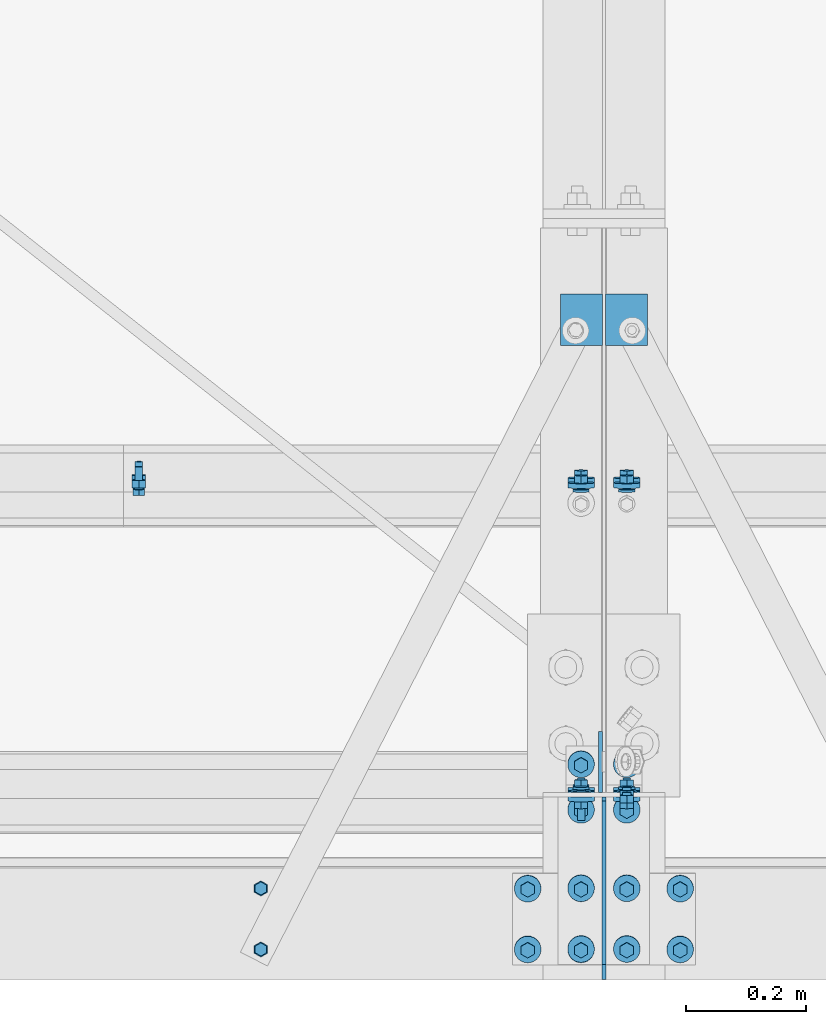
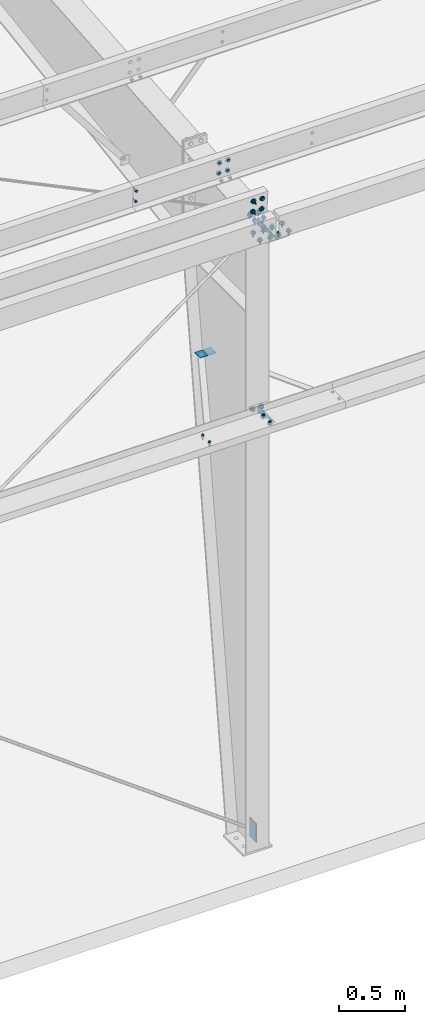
# One storey, part 66 of 185: 16 mechanical fasteners, 5 discrete accessories, 10 elements without a shape of their own.
"""IFC2X3 building model written with IfcOpenShell, lengths in millimetres."""

from ifc_helpers import new_model, si_unit, frame, origin_with_axes, origin_2d_with_axis, place, context, subcontext, project, spatial, polyline, rectangle, circle, outline, extrude, source, transform, mapped, material, type_object, element, aggregate, save


model = new_model("IFC2X3")

# Units and contexts
model_context = context("Model", 3, precision=1e-05, world=origin_with_axes())
body_context = subcontext(model_context, "Body", "Model", "MODEL_VIEW")
ifc_project = project(units=[si_unit("LENGTHUNIT", "METRE", prefix="MILLI"), si_unit("AREAUNIT", "SQUARE_METRE"), si_unit("VOLUMEUNIT", "CUBIC_METRE"), si_unit("MASSUNIT", "GRAM", prefix="KILO"), si_unit("TIMEUNIT", "SECOND"), si_unit("PLANEANGLEUNIT", "RADIAN"), si_unit("SOLIDANGLEUNIT", "STERADIAN"), si_unit("THERMODYNAMICTEMPERATUREUNIT", "DEGREE_CELSIUS"), si_unit("LUMINOUSINTENSITYUNIT", "LUMEN")], contexts=[model_context])

# Site, building, storey
site_placement = place(None, origin_with_axes())
site = spatial("IfcSite", under=ifc_project, at=site_placement, Name="Undefined", CompositionType="ELEMENT")
building_placement = place(site_placement, origin_with_axes())
building = spatial("IfcBuilding", under=site, at=building_placement, Name="Undefined", CompositionType="ELEMENT")
storey_placement = place(building_placement, origin_with_axes())
storey = spatial("IfcBuildingStorey", under=building, at=storey_placement, Name="Undefined", CompositionType="ELEMENT", Elevation=0.0)

# Assembly, mechanical fasteners
assembly_1_placement = place(storey_placement, origin_with_axes())
assembly_1 = element("IfcElementAssembly", 1, at=assembly_1_placement, inside=storey, Name="Steel Assembly", AssemblyPlace="NOTDEFINED", PredefinedType="RIGID_FRAME")
ifc_material_1 = material(Name="Undefined")
discrete_accessory_type_1 = type_object("IfcDiscreteAccessoryType", Name="Bolt assembly")
shared_shape_1 = source(origin_with_axes(), body_context, "Body", "SweptSolid", [
    extrude(circle(Radius=7.14374971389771, at=origin_2d_with_axis()), frame((0.0, -1.59000001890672, 0.0), z_axis=(0.0, 1.0, 0.0), x_axis=(1.0, 0.0, 0.0)), (0.0, 0.0, 1.0), 3.3),
    extrude(circle(Radius=13.4937496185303, at=origin_2d_with_axis()), frame((0.0, -5.5587500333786, 0.0), z_axis=(0.0, 1.0, 0.0), x_axis=(1.0, 0.0, 0.0)), (0.0, 0.0, 1.0), 4.0),
    extrude(circle(Radius=22.2250003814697, at=origin_2d_with_axis()), frame((0.0, 1.5900000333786, 0.0), z_axis=(0.0, 1.0, 0.0), x_axis=(1.0, 0.0, 0.0)), (0.0, 0.0, 1.0), 7.9),
    extrude(outline(polyline([(12.8316099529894, 0.0), (6.4158049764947, 11.1125001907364), (-6.4158049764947, 11.1125001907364), (-12.8316099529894, 0.0), (-6.4158049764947, -11.1125001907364), (6.4158049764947, -11.1125001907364), (12.8316099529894, 0.0)])), frame((0.0, 9.5275000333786, 0.0), z_axis=(0.0, 1.0, 0.0), x_axis=(1.0, 0.0, 0.0)), (0.0, 0.0, 1.0), 12.3),
])
mechanical_fastener_1_placement = place(assembly_1_placement, frame((14820.9, 307.870484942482, 6070.6797900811), z_axis=(-1.0, 0.0, 0.0), x_axis=(0.0, 0.0830454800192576, -0.996545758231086)))
mechanical_fastener_1 = element("IfcMechanicalFastener", 2, at=mechanical_fastener_1_placement, type_object=discrete_accessory_type_1, material=ifc_material_1, Name="Bolt assembly", NominalDiameter=12.6999998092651, NominalLength=38.0999984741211, context=body_context, shape_type="MappedRepresentation", body=[
    mapped(shared_shape_1, transform((0.0, 0.0, 0.0))),
    mapped(shared_shape_1, transform((101.599998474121, 0.0, 0.0))),
])
mechanical_fastener_2_placement = place(assembly_1_placement, frame((14897.1, 307.870484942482, 6070.6797900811), z_axis=(-1.0, 0.0, 0.0), x_axis=(0.0, 0.0830454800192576, -0.996545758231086)))
mechanical_fastener_2 = element("IfcMechanicalFastener", 3, at=mechanical_fastener_2_placement, type_object=discrete_accessory_type_1, material=ifc_material_1, Name="Bolt assembly", NominalDiameter=12.6999998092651, NominalLength=38.0999984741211, context=body_context, shape_type="MappedRepresentation", body=[
    mapped(shared_shape_1, transform((0.0, 0.0, 0.0))),
    mapped(shared_shape_1, transform((101.599998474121, 0.0, 0.0))),
])

# Assembly, mechanical fastener
assembly_2_placement = place(storey_placement, origin_with_axes())
assembly_2 = element("IfcElementAssembly", 4, at=assembly_2_placement, inside=storey, Name="Steel Assembly", AssemblyPlace="NOTDEFINED", PredefinedType="RIGID_FRAME")
mechanical_fastener_3_placement = place(assembly_2_placement, frame((14897.1, 818.861779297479, 6113.26239802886), z_axis=(1.0, 0.0, 0.0), x_axis=(0.0, 0.0830454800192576, -0.996545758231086)))
mechanical_fastener_3 = element("IfcMechanicalFastener", 5, at=mechanical_fastener_3_placement, type_object=discrete_accessory_type_1, material=ifc_material_1, Name="Bolt assembly", NominalDiameter=12.6999998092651, NominalLength=38.0999984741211, context=body_context, shape_type="MappedRepresentation", body=[
    mapped(shared_shape_1, transform((0.0, 0.0, 0.0))),
    mapped(shared_shape_1, transform((101.599998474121, 0.0, 0.0))),
])
aggregate(assembly_2, [mechanical_fastener_3])

assembly_3_placement = place(storey_placement, origin_with_axes())
assembly_3 = element("IfcElementAssembly", 6, at=assembly_3_placement, inside=storey, Name="Steel Assembly", AssemblyPlace="NOTDEFINED", PredefinedType="RIGID_FRAME")
mechanical_fastener_4_placement = place(assembly_3_placement, frame((14820.9, 818.861779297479, 6113.26239802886), z_axis=(1.0, 0.0, 0.0), x_axis=(0.0, 0.0830454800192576, -0.996545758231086)))
mechanical_fastener_4 = element("IfcMechanicalFastener", 7, at=mechanical_fastener_4_placement, type_object=discrete_accessory_type_1, material=ifc_material_1, Name="Bolt assembly", NominalDiameter=12.6999998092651, NominalLength=38.0999984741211, context=body_context, shape_type="MappedRepresentation", body=[
    mapped(shared_shape_1, transform((0.0, 0.0, 0.0))),
    mapped(shared_shape_1, transform((101.599998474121, 0.0, 0.0))),
])

# Assembly, discrete accessories
assembly_4_placement = place(storey_placement, origin_with_axes())
assembly_4 = element("IfcElementAssembly", 8, at=assembly_4_placement, inside=storey, Name="Steel Assembly", AssemblyPlace="NOTDEFINED", PredefinedType="RIGID_FRAME")
ifc_material_2 = material(Name="STEEL/55")
discrete_accessory_type_2 = type_object("IfcDiscreteAccessoryType", Name="FLANGE BRACE FLIP")
discrete_accessory_1_placement = place(assembly_4_placement, frame((14856.61875, 1100.12169218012, 4163.4569751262), z_axis=(0.0, -1.0, 0.0), x_axis=(-1.0, 0.0, 0.0)))
discrete_accessory_1 = element("IfcDiscreteAccessory", 9, at=discrete_accessory_1_placement, type_object=discrete_accessory_type_2, material=ifc_material_2, Name="FLANGE BRACE FLIP", ObjectType="PL1/8\"X2 3/4\"", context=body_context, shape_type="SweptSolid", body=[
    extrude(rectangle(XDim=3.416, YDim=85.725, at=origin_2d_with_axis()), frame((69.8499999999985, 0.0, 0.0), z_axis=(-1.0, 0.0, 0.0), x_axis=(0.0, -1.0, 0.0)), (0.0, 0.0, 1.0), 69.9),
])
discrete_accessory_2_placement = place(assembly_4_placement, frame((14861.38125, 1100.12169218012, 4163.4569751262), z_axis=(0.0, -1.0, 0.0), x_axis=(1.0, 0.0, 0.0)))
discrete_accessory_2 = element("IfcDiscreteAccessory", 10, at=discrete_accessory_2_placement, type_object=discrete_accessory_type_2, material=ifc_material_2, Name="FLANGE BRACE FLIP", ObjectType="PL1/8\"X2 3/4\"", context=body_context, shape_type="SweptSolid", body=[
    extrude(rectangle(XDim=3.416, YDim=85.725, at=origin_2d_with_axis()), frame((69.8499999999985, 0.0, 0.0), z_axis=(-1.0, 0.0, 0.0), x_axis=(0.0, -1.0, 0.0)), (0.0, 0.0, 1.0), 69.9),
])
discrete_accessory_type_3 = type_object("IfcDiscreteAccessoryType", Name="BACKUP PL SINGLE SLOT")
discrete_accessory_3_placement = place(assembly_4_placement, frame((14853.4437512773, 363.476847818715, 256.515722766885), z_axis=(-0.000896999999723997, -0.999999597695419, 0.0), x_axis=(0.0, 0.0, -1.0)))
discrete_accessory_3 = element("IfcDiscreteAccessory", 11, at=discrete_accessory_3_placement, type_object=discrete_accessory_type_3, material=ifc_material_2, Name="BACKUP PL SINGLE SLOT", ObjectType="FL1/4\"X4\"", context=body_context, shape_type="SweptSolid", body=[
    extrude(rectangle(XDim=6.35, YDim=101.6, at=origin_2d_with_axis()), frame((177.800000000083, 0.0, 0.0), z_axis=(-1.0, 0.0, 0.0), x_axis=(0.0, -1.0, 0.0)), (0.0, 0.0, 1.0), 177.8),
])

# Assembly, discrete accessory, mechanical fasteners
assembly_5_placement = place(storey_placement, origin_with_axes())
assembly_5 = element("IfcElementAssembly", 12, at=assembly_5_placement, inside=storey, Name="Steel Assembly", AssemblyPlace="NOTDEFINED", PredefinedType="RIGID_FRAME")
discrete_accessory_type_4 = type_object("IfcDiscreteAccessoryType", Name="Gusett")
discrete_accessory_4_placement = place(assembly_5_placement, frame((14859.0, 298.449999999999, 4089.4), z_axis=(1.0, 0.0, 0.0), x_axis=(0.0, 0.0, 1.0)))
discrete_accessory_4 = element("IfcDiscreteAccessory", 13, at=discrete_accessory_4_placement, type_object=discrete_accessory_type_4, material=ifc_material_2, Name="Gusett", ObjectType="FL1/4\"X2 3/4\"", context=body_context, shape_type="SweptSolid", body=[
    extrude(outline(polyline([(0.0, 0.0), (69.8499984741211, 0.0), (69.8499984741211, 273.049987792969), (0.0, 0.0)])), frame((0.0, 0.0, -3.175), z_axis=(0.0, 0.0, 1.0), x_axis=(1.0, 0.0, 0.0)), (0.0, 0.0, 1.0), 6.4),
])
shared_shape_2 = source(origin_with_axes(), body_context, "Body", "SweptSolid", [
    extrude(circle(Radius=7.14374971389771, at=origin_2d_with_axis()), frame((0.0, -0.1, 0.0), z_axis=(0.0, 1.0, 0.0), x_axis=(1.0, 0.0, 0.0)), (0.0, 0.0, 1.0), 8.0),
    extrude(circle(Radius=7.14374971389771, at=origin_2d_with_axis()), frame((0.0, -6.24999999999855, 0.0), z_axis=(0.0, 1.0, 0.0), x_axis=(1.0, 0.0, 0.0)), (0.0, 0.0, 1.0), 6.4),
    extrude(outline(polyline([(10.9985221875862, 0.0), (5.4992610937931, 9.52499961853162), (-5.4992610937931, 9.52499961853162), (-10.9985221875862, 0.0), (-5.4992610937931, -9.52499961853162), (5.4992610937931, -9.52499961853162), (10.9985221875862, 0.0)])), frame((0.0, -15.8750000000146, 0.0), z_axis=(0.0, 1.0, 0.0), x_axis=(1.0, 0.0, 0.0)), (0.0, 0.0, 1.0), 9.5),
    extrude(circle(Radius=6.34999990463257, at=origin_2d_with_axis()), frame((0.0, -6.34999953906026, 0.0), z_axis=(0.0, 1.0, 0.0), x_axis=(1.0, 0.0, 0.0)), (0.0, 0.0, 1.0), 38.1),
    extrude(circle(Radius=22.2250003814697, at=origin_2d_with_axis()), frame((0.0, 7.87399999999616, 0.0), z_axis=(0.0, 1.0, 0.0), x_axis=(1.0, 0.0, 0.0)), (0.0, 0.0, 1.0), 7.9),
    extrude(outline(polyline([(12.8316099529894, 0.0), (6.4158049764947, 11.1125001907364), (-6.4158049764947, 11.1125001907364), (-12.8316099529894, 0.0), (-6.4158049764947, -11.1125001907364), (6.4158049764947, -11.1125001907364), (12.8316099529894, 0.0)])), frame((0.0, 15.8114999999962, 0.0), z_axis=(0.0, 1.0, 0.0), x_axis=(1.0, 0.0, 0.0)), (0.0, 0.0, 1.0), 12.3),
])
mechanical_fastener_5_placement = place(assembly_5_placement, frame((14859.0, 304.8, 4127.5), z_axis=(1.0, 0.0, 0.0), x_axis=(0.0, 0.0, -1.0)))
mechanical_fastener_5 = element("IfcMechanicalFastener", 14, at=mechanical_fastener_5_placement, type_object=discrete_accessory_type_1, material=ifc_material_1, Name="Bolt assembly", NominalDiameter=12.6999998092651, NominalLength=38.0999984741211, context=body_context, shape_type="MappedRepresentation", body=[
    mapped(shared_shape_2, transform((0.0, 0.0, -38.0999984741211))),
    mapped(shared_shape_2, transform((0.0, 0.0, 38.0999984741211))),
])
shared_shape_3 = source(origin_with_axes(), body_context, "Body", "SweptSolid", [
    extrude(circle(Radius=7.14374971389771, at=origin_2d_with_axis()), frame((0.0, -1.4900000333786, 0.0), z_axis=(0.0, 1.0, 0.0), x_axis=(1.0, 0.0, 0.0)), (0.0, 0.0, 1.0), 3.2),
    extrude(circle(Radius=7.14374971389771, at=origin_2d_with_axis()), frame((0.0, -0.1, 0.0), z_axis=(0.0, 1.0, 0.0), x_axis=(1.0, 0.0, 0.0)), (0.0, 0.0, 1.0), 6.5),
    extrude(circle(Radius=7.14374971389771, at=origin_2d_with_axis()), frame((0.0, -1.4900000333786, 0.0), z_axis=(0.0, 1.0, 0.0), x_axis=(1.0, 0.0, 0.0)), (0.0, 0.0, 1.0), 3.2),
    extrude(outline(polyline([(10.9985221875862, 0.0), (5.4992610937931, 9.52499961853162), (-5.4992610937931, 9.52499961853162), (-10.9985221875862, 0.0), (-5.4992610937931, -9.52499961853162), (5.4992610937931, -9.52499961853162), (10.9985221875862, 0.0)])), frame((0.0, -15.0837496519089, 0.0), z_axis=(0.0, 1.0, 0.0), x_axis=(1.0, 0.0, 0.0)), (0.0, 0.0, 1.0), 9.5),
    extrude(circle(Radius=6.34999990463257, at=origin_2d_with_axis()), frame((0.0, -5.5587500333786, 0.0), z_axis=(0.0, 1.0, 0.0), x_axis=(1.0, 0.0, 0.0)), (0.0, 0.0, 1.0), 38.1),
    extrude(circle(Radius=13.4937496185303, at=origin_2d_with_axis()), frame((0.0, -5.5587500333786, 0.0), z_axis=(0.0, 1.0, 0.0), x_axis=(1.0, 0.0, 0.0)), (0.0, 0.0, 1.0), 4.0),
    extrude(circle(Radius=22.2250003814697, at=origin_2d_with_axis()), frame((0.0, 6.35000000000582, 0.0), z_axis=(0.0, 1.0, 0.0), x_axis=(1.0, 0.0, 0.0)), (0.0, 0.0, 1.0), 7.9),
    extrude(outline(polyline([(12.8316099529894, 0.0), (6.4158049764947, 11.1125001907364), (-6.4158049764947, 11.1125001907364), (-12.8316099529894, 0.0), (-6.4158049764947, -11.1125001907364), (6.4158049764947, -11.1125001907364), (12.8316099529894, 0.0)])), frame((0.0, 14.2875000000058, 0.0), z_axis=(0.0, 1.0, 0.0), x_axis=(1.0, 0.0, 0.0)), (0.0, 0.0, 1.0), 12.3),
])
mechanical_fastener_6_placement = place(assembly_5_placement, frame((14820.9, 50.7999992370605, 4165.6), z_axis=(-1.0, 0.0, 0.0), x_axis=(0.0, 1.0, 0.0)))
mechanical_fastener_6 = element("IfcMechanicalFastener", 15, at=mechanical_fastener_6_placement, type_object=discrete_accessory_type_1, material=ifc_material_1, Name="Bolt assembly", NominalDiameter=12.6999998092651, NominalLength=38.0999984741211, context=body_context, shape_type="MappedRepresentation", body=[
    mapped(shared_shape_3, transform((0.0, 0.0, 0.0))),
    mapped(shared_shape_3, transform((101.599998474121, 0.0, 0.0))),
])
aggregate(assembly_5, [mechanical_fastener_5, mechanical_fastener_6, discrete_accessory_4])

# Assembly, mechanical fastener
assembly_6_placement = place(storey_placement, origin_with_axes())
assembly_6 = element("IfcElementAssembly", 16, at=assembly_6_placement, inside=storey, Name="Steel Assembly", AssemblyPlace="NOTDEFINED", PredefinedType="RIGID_FRAME")
shared_shape_4 = source(origin_with_axes(), body_context, "Body", "SweptSolid", [
    extrude(circle(Radius=7.14374971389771, at=origin_2d_with_axis()), frame((0.0, -1.4900000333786, 0.0), z_axis=(0.0, 1.0, 0.0), x_axis=(1.0, 0.0, 0.0)), (0.0, 0.0, 1.0), 3.2),
    extrude(circle(Radius=7.14374971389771, at=origin_2d_with_axis()), frame((0.0, -1.4900000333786, 0.0), z_axis=(0.0, 1.0, 0.0), x_axis=(1.0, 0.0, 0.0)), (0.0, 0.0, 1.0), 3.2),
    extrude(outline(polyline([(10.9985221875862, 0.0), (5.4992610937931, 9.52499961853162), (-5.4992610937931, 9.52499961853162), (-10.9985221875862, 0.0), (-5.4992610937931, -9.52499961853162), (5.4992610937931, -9.52499961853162), (10.9985221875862, 0.0)])), frame((0.0, -11.1149996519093, 0.0), z_axis=(0.0, 1.0, 0.0), x_axis=(1.0, 0.0, 0.0)), (0.0, 0.0, 1.0), 9.5),
    extrude(circle(Radius=6.34999990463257, at=origin_2d_with_axis()), frame((0.0, -1.59000001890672, 0.0), z_axis=(0.0, 1.0, 0.0), x_axis=(1.0, 0.0, 0.0)), (0.0, 0.0, 1.0), 38.1),
    extrude(outline(polyline([(12.8316099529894, 0.0), (6.4158049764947, 11.1125001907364), (-6.4158049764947, 11.1125001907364), (-12.8316099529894, 0.0), (-6.4158049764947, -11.1125001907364), (6.4158049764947, -11.1125001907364), (12.8316099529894, 0.0)])), frame((0.0, 1.5900000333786, 0.0), z_axis=(0.0, 1.0, 0.0), x_axis=(1.0, 0.0, 0.0)), (0.0, 0.0, 1.0), 12.3),
])
mechanical_fastener_7_placement = place(assembly_6_placement, frame((14287.5, 50.8, 4165.6), z_axis=(-1.0, 0.0, 0.0), x_axis=(0.0, 1.0, 0.0)))
mechanical_fastener_7 = element("IfcMechanicalFastener", 17, at=mechanical_fastener_7_placement, type_object=discrete_accessory_type_1, material=ifc_material_1, Name="Bolt assembly", NominalDiameter=12.6999998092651, NominalLength=38.0999984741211, context=body_context, shape_type="MappedRepresentation", body=[
    mapped(shared_shape_4, transform((0.0, 0.0, 0.0))),
    mapped(shared_shape_4, transform((101.599998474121, 0.0, 0.0))),
])
aggregate(assembly_6, [mechanical_fastener_7])

# Mechanical fastener
mechanical_fastener_8_placement = place(assembly_3_placement, frame((14084.3, 818.861779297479, 6113.26239802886), z_axis=(1.0, 0.0, 0.0), x_axis=(0.0, 0.0830454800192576, -0.996545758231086)))
mechanical_fastener_8 = element("IfcMechanicalFastener", 18, at=mechanical_fastener_8_placement, type_object=discrete_accessory_type_1, material=ifc_material_1, Name="Bolt assembly", NominalDiameter=12.6999998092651, NominalLength=38.0999984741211, context=body_context, shape_type="MappedRepresentation", body=[
    mapped(shared_shape_4, transform((0.0, 0.0, 0.0))),
    mapped(shared_shape_4, transform((101.599998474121, 0.0, 0.0))),
])

aggregate(assembly_3, [mechanical_fastener_4, mechanical_fastener_8])

# Discrete accessory
discrete_accessory_type_5 = type_object("IfcDiscreteAccessoryType", Name="Gusset")
discrete_accessory_5_placement = place(assembly_4_placement, frame((14859.0, 304.8, 5909.51790803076), z_axis=(1.0, 0.0, 0.0), x_axis=(0.0, -0.996548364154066, -0.0830142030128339)))
discrete_accessory_5 = element("IfcDiscreteAccessory", 19, at=discrete_accessory_5_placement, type_object=discrete_accessory_type_5, material=ifc_material_2, Name="Gusset", ObjectType="1/4\"X2 15/16\"", context=body_context, shape_type="SweptSolid", body=[
    extrude(outline(polyline([(0.0, 0.0), (305.244781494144, -7.45785655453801e-11), (6.32568216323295, 75.9369888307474), (0.0, 0.0)])), frame((0.0, 0.0, -3.175), z_axis=(0.0, 0.0, 1.0), x_axis=(1.0, 0.0, 0.0)), (0.0, 0.0, 1.0), 6.4),
])

# Mechanical fastener
shared_shape_5 = source(origin_with_axes(), body_context, "Body", "SweptSolid", [
    extrude(circle(Radius=7.14374971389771, at=origin_2d_with_axis()), frame((0.0, -0.1, 0.0), z_axis=(0.0, 1.0, 0.0), x_axis=(1.0, 0.0, 0.0)), (0.0, 0.0, 1.0), 8.1),
    extrude(circle(Radius=7.14374971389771, at=origin_2d_with_axis()), frame((0.0, -3.08000006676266, 0.0), z_axis=(0.0, 1.0, 0.0), x_axis=(1.0, 0.0, 0.0)), (0.0, 0.0, 1.0), 3.2),
    extrude(outline(polyline([(12.8316099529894, 0.0), (6.4158049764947, 11.1125001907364), (-6.4158049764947, 11.1125001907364), (-12.8316099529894, 0.0), (-6.4158049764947, -11.1125001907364), (6.4158049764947, -11.1125001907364), (12.8316099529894, 0.0)])), frame((0.0, -11.1175003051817, 0.0), z_axis=(0.0, 1.0, 0.0), x_axis=(1.0, 0.0, 0.0)), (0.0, 0.0, 1.0), 7.9),
    extrude(circle(Radius=6.34999990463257, at=origin_2d_with_axis()), frame((0.0, -3.18000030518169, 0.0), z_axis=(0.0, 1.0, 0.0), x_axis=(1.0, 0.0, 0.0)), (0.0, 0.0, 1.0), 50.8),
    extrude(circle(Radius=22.2250003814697, at=origin_2d_with_axis()), frame((0.0, 7.95019856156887, 0.0), z_axis=(0.0, 1.0, 0.0), x_axis=(1.0, 0.0, 0.0)), (0.0, 0.0, 1.0), 7.9),
    extrude(outline(polyline([(12.8316099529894, 0.0), (6.4158049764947, 11.1125001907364), (-6.4158049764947, 11.1125001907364), (-12.8316099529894, 0.0), (-6.4158049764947, -11.1125001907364), (6.4158049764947, -11.1125001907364), (12.8316099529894, 0.0)])), frame((0.0, 15.8876985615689, 0.0), z_axis=(0.0, 1.0, 0.0), x_axis=(1.0, 0.0, 0.0)), (0.0, 0.0, 1.0), 12.3),
])
mechanical_fastener_9_placement = place(assembly_1_placement, frame((14859.0, 282.558222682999, 5915.64218374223), z_axis=(1.0, 0.0, 0.0), x_axis=(0.0, -0.996545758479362, -0.0830454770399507)))
mechanical_fastener_9 = element("IfcMechanicalFastener", 20, at=mechanical_fastener_9_placement, type_object=discrete_accessory_type_1, material=ifc_material_1, Name="Bolt assembly", NominalDiameter=12.6999998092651, NominalLength=50.7999992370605, context=body_context, shape_type="MappedRepresentation", body=[
    mapped(shared_shape_5, transform((0.0, 0.0, -38.0999984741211))),
    mapped(shared_shape_5, transform((0.0, 0.0, 38.0999984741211))),
])

aggregate(assembly_1, [mechanical_fastener_1, mechanical_fastener_2, mechanical_fastener_9])

shared_shape_6 = source(origin_with_axes(), body_context, "Body", "SweptSolid", [
    extrude(circle(Radius=7.14374971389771, at=origin_2d_with_axis()), frame((0.0, -4.65999985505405, 0.0), z_axis=(0.0, 1.0, 0.0), x_axis=(1.0, 0.0, 0.0)), (0.0, 0.0, 1.0), 4.8),
    extrude(circle(Radius=7.14374971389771, at=origin_2d_with_axis()), frame((0.0, -0.1, 0.0), z_axis=(0.0, 1.0, 0.0), x_axis=(1.0, 0.0, 0.0)), (0.0, 0.0, 1.0), 8.1),
    extrude(outline(polyline([(12.8316099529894, 0.0), (6.4158049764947, 11.1125001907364), (-6.4158049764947, 11.1125001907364), (-12.8316099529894, 0.0), (-6.4158049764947, -11.1125001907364), (6.4158049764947, -11.1125001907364), (12.8316099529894, 0.0)])), frame((0.0, -12.697499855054, 0.0), z_axis=(0.0, 1.0, 0.0), x_axis=(1.0, 0.0, 0.0)), (0.0, 0.0, 1.0), 7.9),
    extrude(circle(Radius=6.34999990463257, at=origin_2d_with_axis()), frame((0.0, -4.75999985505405, 0.0), z_axis=(0.0, 1.0, 0.0), x_axis=(1.0, 0.0, 0.0)), (0.0, 0.0, 1.0), 50.8),
    extrude(circle(Radius=22.2250003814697, at=origin_2d_with_axis()), frame((0.0, 7.95019856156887, 0.0), z_axis=(0.0, 1.0, 0.0), x_axis=(1.0, 0.0, 0.0)), (0.0, 0.0, 1.0), 7.9),
    extrude(outline(polyline([(12.8316099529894, 0.0), (6.4158049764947, 11.1125001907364), (-6.4158049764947, 11.1125001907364), (-12.8316099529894, 0.0), (-6.4158049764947, -11.1125001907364), (6.4158049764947, -11.1125001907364), (12.8316099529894, 0.0)])), frame((0.0, 15.8876985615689, 0.0), z_axis=(0.0, 1.0, 0.0), x_axis=(1.0, 0.0, 0.0)), (0.0, 0.0, 1.0), 12.3),
])
mechanical_fastener_10_placement = place(assembly_4_placement, frame((14859.0, 358.495009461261, 5921.97024930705), z_axis=(-1.0, 0.0, 0.0), x_axis=(0.0, 0.996545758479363, 0.0830454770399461)))
mechanical_fastener_10 = element("IfcMechanicalFastener", 21, at=mechanical_fastener_10_placement, type_object=discrete_accessory_type_1, material=ifc_material_1, Name="Bolt assembly", NominalDiameter=12.6999998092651, NominalLength=50.7999992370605, context=body_context, shape_type="MappedRepresentation", body=[
    mapped(shared_shape_6, transform((0.0, 0.0, -38.0999984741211))),
    mapped(shared_shape_6, transform((0.0, 0.0, 38.0999984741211))),
])

aggregate(assembly_4, [discrete_accessory_3, discrete_accessory_1, discrete_accessory_2, discrete_accessory_5, mechanical_fastener_10])

# Assembly, mechanical fasteners
assembly_7_placement = place(storey_placement, origin_with_axes())
assembly_7 = element("IfcElementAssembly", 22, at=assembly_7_placement, inside=storey, Name="Steel Assembly", AssemblyPlace="NOTDEFINED", PredefinedType="RIGID_FRAME")
shared_shape_7 = source(origin_with_axes(), body_context, "Body", "SweptSolid", [
    extrude(circle(Radius=7.14374971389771, at=origin_2d_with_axis()), frame((0.0, -4.75999985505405, 0.0), z_axis=(0.0, 1.0, 0.0), x_axis=(1.0, 0.0, 0.0)), (0.0, 0.0, 1.0), 4.9),
    extrude(outline(polyline([(12.8316099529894, 0.0), (6.4158049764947, 11.1125001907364), (-6.4158049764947, 11.1125001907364), (-12.8316099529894, 0.0), (-6.4158049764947, -11.1125001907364), (6.4158049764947, -11.1125001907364), (12.8316099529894, 0.0)])), frame((0.0, 0.0, 0.0), z_axis=(0.0, 1.0, 0.0), x_axis=(1.0, 0.0, 0.0)), (0.0, 0.0, 1.0), 12.3),
])
mechanical_fastener_11_placement = place(assembly_7_placement, frame((14897.1, 307.870484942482, 6070.6797900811), z_axis=(-1.0, 0.0, 0.0), x_axis=(0.0, 0.0830454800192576, -0.996545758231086)))
mechanical_fastener_11 = element("IfcMechanicalFastener", 23, at=mechanical_fastener_11_placement, type_object=discrete_accessory_type_1, material=ifc_material_1, Name="Bolt assembly", NominalDiameter=12.6999998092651, NominalLength=50.7999992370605, context=body_context, shape_type="MappedRepresentation", body=[
    mapped(shared_shape_7, transform((0.0, 0.0, 0.0))),
    mapped(shared_shape_7, transform((101.599998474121, 0.0, 0.0))),
])
shared_shape_8 = source(origin_with_axes(), body_context, "Body", "SweptSolid", [
    extrude(circle(Radius=7.14374971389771, at=origin_2d_with_axis()), frame((0.0, -4.75999985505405, 0.0), z_axis=(0.0, 1.0, 0.0), x_axis=(1.0, 0.0, 0.0)), (0.0, 0.0, 1.0), 4.9),
    extrude(outline(polyline([(12.8316099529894, 0.0), (6.4158049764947, 11.1125001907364), (-6.4158049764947, 11.1125001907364), (-12.8316099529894, 0.0), (-6.4158049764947, -11.1125001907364), (6.4158049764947, -11.1125001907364), (12.8316099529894, 0.0)])), frame((0.0, -16.6662538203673, 0.0), z_axis=(0.0, 1.0, 0.0), x_axis=(1.0, 0.0, 0.0)), (0.0, 0.0, 1.0), 7.9),
    extrude(circle(Radius=6.34999990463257, at=origin_2d_with_axis()), frame((0.0, -8.72875382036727, 0.0), z_axis=(0.0, 1.0, 0.0), x_axis=(1.0, 0.0, 0.0)), (0.0, 0.0, 1.0), 50.8),
    extrude(circle(Radius=13.4937496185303, at=origin_2d_with_axis()), frame((0.0, -8.72875382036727, 0.0), z_axis=(0.0, 1.0, 0.0), x_axis=(1.0, 0.0, 0.0)), (0.0, 0.0, 1.0), 4.0),
    extrude(circle(Radius=22.2250003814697, at=origin_2d_with_axis()), frame((0.0, 0.0, 0.0), z_axis=(0.0, 1.0, 0.0), x_axis=(1.0, 0.0, 0.0)), (0.0, 0.0, 1.0), 7.9),
    extrude(outline(polyline([(12.8316099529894, 0.0), (6.4158049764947, 11.1125001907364), (-6.4158049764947, 11.1125001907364), (-12.8316099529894, 0.0), (-6.4158049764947, -11.1125001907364), (6.4158049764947, -11.1125001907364), (12.8316099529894, 0.0)])), frame((0.0, 7.93750000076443, 0.0), z_axis=(0.0, 1.0, 0.0), x_axis=(1.0, 0.0, 0.0)), (0.0, 0.0, 1.0), 12.3),
])
mechanical_fastener_12_placement = place(assembly_7_placement, frame((14820.9, 307.870484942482, 6070.6797900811), z_axis=(-1.0, 0.0, 0.0), x_axis=(0.0, 0.0830454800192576, -0.996545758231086)))
mechanical_fastener_12 = element("IfcMechanicalFastener", 24, at=mechanical_fastener_12_placement, type_object=discrete_accessory_type_1, material=ifc_material_1, Name="Bolt assembly", NominalDiameter=12.6999998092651, NominalLength=50.7999992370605, context=body_context, shape_type="MappedRepresentation", body=[
    mapped(shared_shape_8, transform((0.0, 0.0, 0.0))),
    mapped(shared_shape_8, transform((101.599998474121, 0.0, 0.0))),
])
aggregate(assembly_7, [mechanical_fastener_11, mechanical_fastener_12])

assembly_8_placement = place(storey_placement, origin_with_axes())
assembly_8 = element("IfcElementAssembly", 25, at=assembly_8_placement, inside=storey, Name="Steel Assembly", AssemblyPlace="NOTDEFINED", PredefinedType="RIGID_FRAME")
shared_shape_9 = source(origin_with_axes(), body_context, "Body", "SweptSolid", [
    extrude(circle(Radius=7.14499998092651, at=origin_2d_with_axis()), frame((0.0, -7.8375000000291, 0.0), z_axis=(0.0, 1.0, 0.0), x_axis=(1.0, 0.0, 0.0)), (0.0, 0.0, 1.0), 6.4),
    extrude(circle(Radius=7.14499998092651, at=origin_2d_with_axis()), frame((0.0, -1.58749999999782, 0.0), z_axis=(0.0, 1.0, 0.0), x_axis=(1.0, 0.0, 0.0)), (0.0, 0.0, 1.0), 1.6),
    extrude(circle(Radius=7.14499998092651, at=origin_2d_with_axis()), frame((0.0, -0.1, 0.0), z_axis=(0.0, 1.0, 0.0), x_axis=(1.0, 0.0, 0.0)), (0.0, 0.0, 1.0), 8.1),
    extrude(outline(polyline([(12.8316099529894, 0.0), (6.4158049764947, 11.1125001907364), (-6.4158049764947, 11.1125001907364), (-12.8316099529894, 0.0), (-6.4158049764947, -11.1125001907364), (6.4158049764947, -11.1125001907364), (12.8316099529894, 0.0)])), frame((0.0, -15.8750000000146, 0.0), z_axis=(0.0, 1.0, 0.0), x_axis=(1.0, 0.0, 0.0)), (0.0, 0.0, 1.0), 7.9),
    extrude(circle(Radius=6.34999990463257, at=origin_2d_with_axis()), frame((0.0, -7.93749389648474, 0.0), z_axis=(0.0, 1.0, 0.0), x_axis=(1.0, 0.0, 0.0)), (0.0, 0.0, 1.0), 50.8),
    extrude(circle(Radius=22.2250003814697, at=origin_2d_with_axis()), frame((0.0, 7.95019856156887, 0.0), z_axis=(0.0, 1.0, 0.0), x_axis=(1.0, 0.0, 0.0)), (0.0, 0.0, 1.0), 7.9),
    extrude(outline(polyline([(12.8316099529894, 0.0), (6.4158049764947, 11.1125001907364), (-6.4158049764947, 11.1125001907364), (-12.8316099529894, 0.0), (-6.4158049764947, -11.1125001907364), (6.4158049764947, -11.1125001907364), (12.8316099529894, 0.0)])), frame((0.0, 15.8876985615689, 0.0), z_axis=(0.0, 1.0, 0.0), x_axis=(1.0, 0.0, 0.0)), (0.0, 0.0, 1.0), 12.3),
])
mechanical_fastener_13_placement = place(assembly_8_placement, frame((14820.9, 50.6245237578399, 5896.31437545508), z_axis=(-1.0, 0.0, 0.0), x_axis=(0.0, 0.996545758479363, 0.0830454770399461)))
mechanical_fastener_13 = element("IfcMechanicalFastener", 26, at=mechanical_fastener_13_placement, type_object=discrete_accessory_type_1, material=ifc_material_1, Name="Bolt assembly", NominalDiameter=12.6999998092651, NominalLength=50.7999992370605, context=body_context, shape_type="MappedRepresentation", body=[
    mapped(shared_shape_9, transform((0.0, 0.0, 0.0))),
    mapped(shared_shape_9, transform((101.599998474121, 0.0, 0.0))),
])
shared_shape_10 = source(origin_with_axes(), body_context, "Body", "SweptSolid", [
    extrude(circle(Radius=7.14499998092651, at=origin_2d_with_axis()), frame((0.0, -7.8375000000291, 0.0), z_axis=(0.0, 1.0, 0.0), x_axis=(1.0, 0.0, 0.0)), (0.0, 0.0, 1.0), 6.4),
    extrude(circle(Radius=7.14499998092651, at=origin_2d_with_axis()), frame((0.0, -1.68750355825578, 0.0), z_axis=(0.0, 1.0, 0.0), x_axis=(1.0, 0.0, 0.0)), (0.0, 0.0, 1.0), 1.7),
    extrude(outline(polyline([(12.8316099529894, 0.0), (6.4158049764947, 11.1125001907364), (-6.4158049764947, 11.1125001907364), (-12.8316099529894, 0.0), (-6.4158049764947, -11.1125001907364), (6.4158049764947, -11.1125001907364), (12.8316099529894, 0.0)])), frame((0.0, -15.8750000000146, 0.0), z_axis=(0.0, 1.0, 0.0), x_axis=(1.0, 0.0, 0.0)), (0.0, 0.0, 1.0), 7.9),
    extrude(circle(Radius=6.34999990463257, at=origin_2d_with_axis()), frame((0.0, -7.93749389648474, 0.0), z_axis=(0.0, 1.0, 0.0), x_axis=(1.0, 0.0, 0.0)), (0.0, 0.0, 1.0), 50.8),
    extrude(circle(Radius=22.2250003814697, at=origin_2d_with_axis()), frame((0.0, 0.0, 0.0), z_axis=(0.0, 1.0, 0.0), x_axis=(1.0, 0.0, 0.0)), (0.0, 0.0, 1.0), 7.9),
    extrude(outline(polyline([(12.8316099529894, 0.0), (6.4158049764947, 11.1125001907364), (-6.4158049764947, 11.1125001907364), (-12.8316099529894, 0.0), (-6.4158049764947, -11.1125001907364), (6.4158049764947, -11.1125001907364), (12.8316099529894, 0.0)])), frame((0.0, 7.93750000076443, 0.0), z_axis=(0.0, 1.0, 0.0), x_axis=(1.0, 0.0, 0.0)), (0.0, 0.0, 1.0), 12.3),
])
mechanical_fastener_14_placement = place(assembly_8_placement, frame((14732.0, 50.6245237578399, 5896.31437545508), z_axis=(-1.0, 0.0, 0.0), x_axis=(0.0, 0.996545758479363, 0.0830454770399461)))
mechanical_fastener_14 = element("IfcMechanicalFastener", 27, at=mechanical_fastener_14_placement, type_object=discrete_accessory_type_1, material=ifc_material_1, Name="Bolt assembly", NominalDiameter=12.6999998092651, NominalLength=50.7999992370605, context=body_context, shape_type="MappedRepresentation", body=[
    mapped(shared_shape_10, transform((0.0, 0.0, 0.0))),
    mapped(shared_shape_10, transform((101.599998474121, 0.0, 0.0))),
])
aggregate(assembly_8, [mechanical_fastener_13, mechanical_fastener_14])

# Assembly, mechanical fastener
assembly_9_placement = place(storey_placement, origin_with_axes())
assembly_9 = element("IfcElementAssembly", 28, at=assembly_9_placement, inside=storey, Name="Steel Assembly", AssemblyPlace="NOTDEFINED", PredefinedType="RIGID_FRAME")
shared_shape_11 = source(origin_with_axes(), body_context, "Body", "SweptSolid", [
    extrude(circle(Radius=7.14374971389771, at=origin_2d_with_axis()), frame((0.0, -7.8375000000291, 0.0), z_axis=(0.0, 1.0, 0.0), x_axis=(1.0, 0.0, 0.0)), (0.0, 0.0, 1.0), 6.4),
    extrude(circle(Radius=7.14374971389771, at=origin_2d_with_axis()), frame((0.0, -1.68750355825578, 0.0), z_axis=(0.0, 1.0, 0.0), x_axis=(1.0, 0.0, 0.0)), (0.0, 0.0, 1.0), 1.7),
    extrude(outline(polyline([(12.8316099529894, 0.0), (6.4158049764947, 11.1125001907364), (-6.4158049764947, 11.1125001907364), (-12.8316099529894, 0.0), (-6.4158049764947, -11.1125001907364), (6.4158049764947, -11.1125001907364), (12.8316099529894, 0.0)])), frame((0.0, -15.8750000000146, 0.0), z_axis=(0.0, 1.0, 0.0), x_axis=(1.0, 0.0, 0.0)), (0.0, 0.0, 1.0), 7.9),
    extrude(circle(Radius=6.34999990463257, at=origin_2d_with_axis()), frame((0.0, -7.93749389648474, 0.0), z_axis=(0.0, 1.0, 0.0), x_axis=(1.0, 0.0, 0.0)), (0.0, 0.0, 1.0), 50.8),
    extrude(circle(Radius=22.2250003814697, at=origin_2d_with_axis()), frame((0.0, 0.0, 0.0), z_axis=(0.0, 1.0, 0.0), x_axis=(1.0, 0.0, 0.0)), (0.0, 0.0, 1.0), 7.9),
    extrude(outline(polyline([(12.8316099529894, 0.0), (6.4158049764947, 11.1125001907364), (-6.4158049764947, 11.1125001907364), (-12.8316099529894, 0.0), (-6.4158049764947, -11.1125001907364), (6.4158049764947, -11.1125001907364), (12.8316099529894, 0.0)])), frame((0.0, 7.93750000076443, 0.0), z_axis=(0.0, 1.0, 0.0), x_axis=(1.0, 0.0, 0.0)), (0.0, 0.0, 1.0), 12.3),
])
mechanical_fastener_15_placement = place(assembly_9_placement, frame((14986.0, 50.6245237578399, 5896.31437545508), z_axis=(-1.0, 0.0, 0.0), x_axis=(0.0, 0.996545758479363, 0.0830454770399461)))
mechanical_fastener_15 = element("IfcMechanicalFastener", 29, at=mechanical_fastener_15_placement, type_object=discrete_accessory_type_1, material=ifc_material_1, Name="Bolt assembly", NominalDiameter=12.6999998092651, NominalLength=50.7999992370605, context=body_context, shape_type="MappedRepresentation", body=[
    mapped(shared_shape_11, transform((0.0, 0.0, 0.0))),
    mapped(shared_shape_11, transform((101.599998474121, 0.0, 0.0))),
])
aggregate(assembly_9, [mechanical_fastener_15])

assembly_10_placement = place(storey_placement, origin_with_axes())
assembly_10 = element("IfcElementAssembly", 30, at=assembly_10_placement, inside=storey, Name="Steel Assembly", AssemblyPlace="NOTDEFINED", PredefinedType="RIGID_FRAME")
shared_shape_12 = source(origin_with_axes(), body_context, "Body", "SweptSolid", [
    extrude(circle(Radius=7.14499998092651, at=origin_2d_with_axis()), frame((0.0, -1.58749999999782, 0.0), z_axis=(0.0, 1.0, 0.0), x_axis=(1.0, 0.0, 0.0)), (0.0, 0.0, 1.0), 1.6),
    extrude(circle(Radius=7.14499998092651, at=origin_2d_with_axis()), frame((0.0, -7.8375000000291, 0.0), z_axis=(0.0, 1.0, 0.0), x_axis=(1.0, 0.0, 0.0)), (0.0, 0.0, 1.0), 6.4),
    extrude(circle(Radius=7.14499998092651, at=origin_2d_with_axis()), frame((0.0, -0.1, 0.0), z_axis=(0.0, 1.0, 0.0), x_axis=(1.0, 0.0, 0.0)), (0.0, 0.0, 1.0), 8.1),
    extrude(outline(polyline([(12.8316099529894, 0.0), (6.4158049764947, 11.1125001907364), (-6.4158049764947, 11.1125001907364), (-12.8316099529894, 0.0), (-6.4158049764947, -11.1125001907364), (6.4158049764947, -11.1125001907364), (12.8316099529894, 0.0)])), frame((0.0, -15.8750000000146, 0.0), z_axis=(0.0, 1.0, 0.0), x_axis=(1.0, 0.0, 0.0)), (0.0, 0.0, 1.0), 7.9),
    extrude(circle(Radius=6.34999990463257, at=origin_2d_with_axis()), frame((0.0, -7.93749389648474, 0.0), z_axis=(0.0, 1.0, 0.0), x_axis=(1.0, 0.0, 0.0)), (0.0, 0.0, 1.0), 50.8),
    extrude(circle(Radius=22.2250003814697, at=origin_2d_with_axis()), frame((0.0, 7.95019856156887, 0.0), z_axis=(0.0, 1.0, 0.0), x_axis=(1.0, 0.0, 0.0)), (0.0, 0.0, 1.0), 7.9),
    extrude(outline(polyline([(12.8316099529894, 0.0), (6.4158049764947, 11.1125001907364), (-6.4158049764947, 11.1125001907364), (-12.8316099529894, 0.0), (-6.4158049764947, -11.1125001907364), (6.4158049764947, -11.1125001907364), (12.8316099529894, 0.0)])), frame((0.0, 15.8876985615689, 0.0), z_axis=(0.0, 1.0, 0.0), x_axis=(1.0, 0.0, 0.0)), (0.0, 0.0, 1.0), 12.3),
])
mechanical_fastener_16_placement = place(assembly_10_placement, frame((14897.1, 50.6245237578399, 5896.31437545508), z_axis=(-1.0, 0.0, 0.0), x_axis=(0.0, 0.996545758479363, 0.0830454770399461)))
mechanical_fastener_16 = element("IfcMechanicalFastener", 31, at=mechanical_fastener_16_placement, type_object=discrete_accessory_type_1, material=ifc_material_1, Name="Bolt assembly", NominalDiameter=12.6999998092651, NominalLength=50.7999992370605, context=body_context, shape_type="MappedRepresentation", body=[
    mapped(shared_shape_12, transform((0.0, 0.0, 0.0))),
    mapped(shared_shape_12, transform((101.599998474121, 0.0, 0.0))),
])
aggregate(assembly_10, [mechanical_fastener_16])

save(model, "model.ifc")
